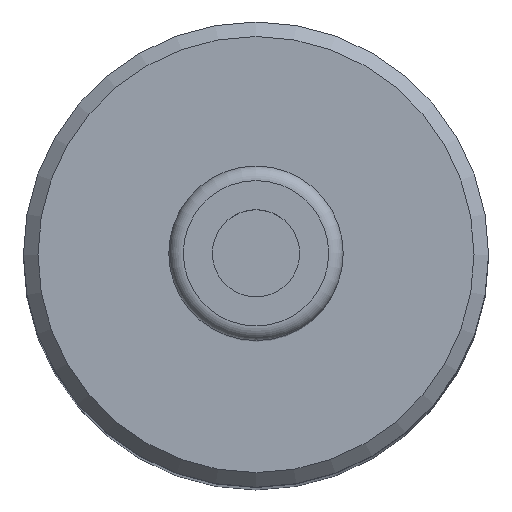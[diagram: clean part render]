
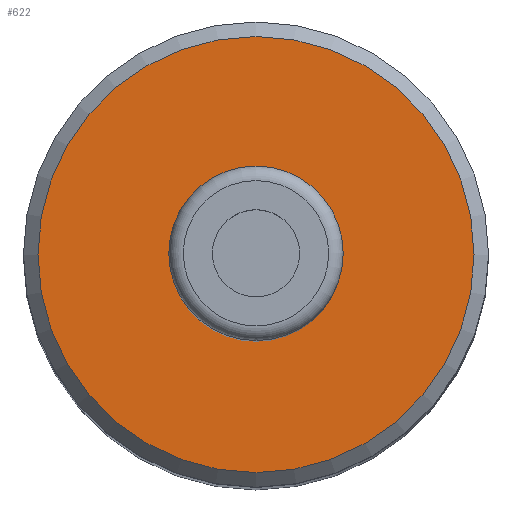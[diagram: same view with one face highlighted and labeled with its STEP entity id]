
A CAD part, top view. The second image highlights one B-rep face of the part: STEP entity #622.
In plain terms, the highlighted planar face has unit normal (0, 0, 1).
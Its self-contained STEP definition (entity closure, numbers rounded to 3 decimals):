
#602 = VERTEX_POINT('',#603);
#603 = CARTESIAN_POINT('',(15.,0.,113.));
#611 = EDGE_CURVE('',#602,#602,#612,.T.);
#612 = CIRCLE('',#613,15.);
#613 = AXIS2_PLACEMENT_3D('',#614,#615,#616);
#614 = CARTESIAN_POINT('',(0.,0.,113.));
#615 = DIRECTION('',(0.,0.,1.));
#616 = DIRECTION('',(1.,0.,0.));
#622 = ADVANCED_FACE('',(#623),#626,.T.);
#623 = FACE_BOUND('',#624,.T.);
#624 = EDGE_LOOP('',(#625));
#625 = ORIENTED_EDGE('',*,*,#611,.T.);
#626 = PLANE('',#627);
#627 = AXIS2_PLACEMENT_3D('',#628,#629,#630);
#628 = CARTESIAN_POINT('',(0.,0.,113.));
#629 = DIRECTION('',(0.,0.,1.));
#630 = DIRECTION('',(1.,0.,0.));
